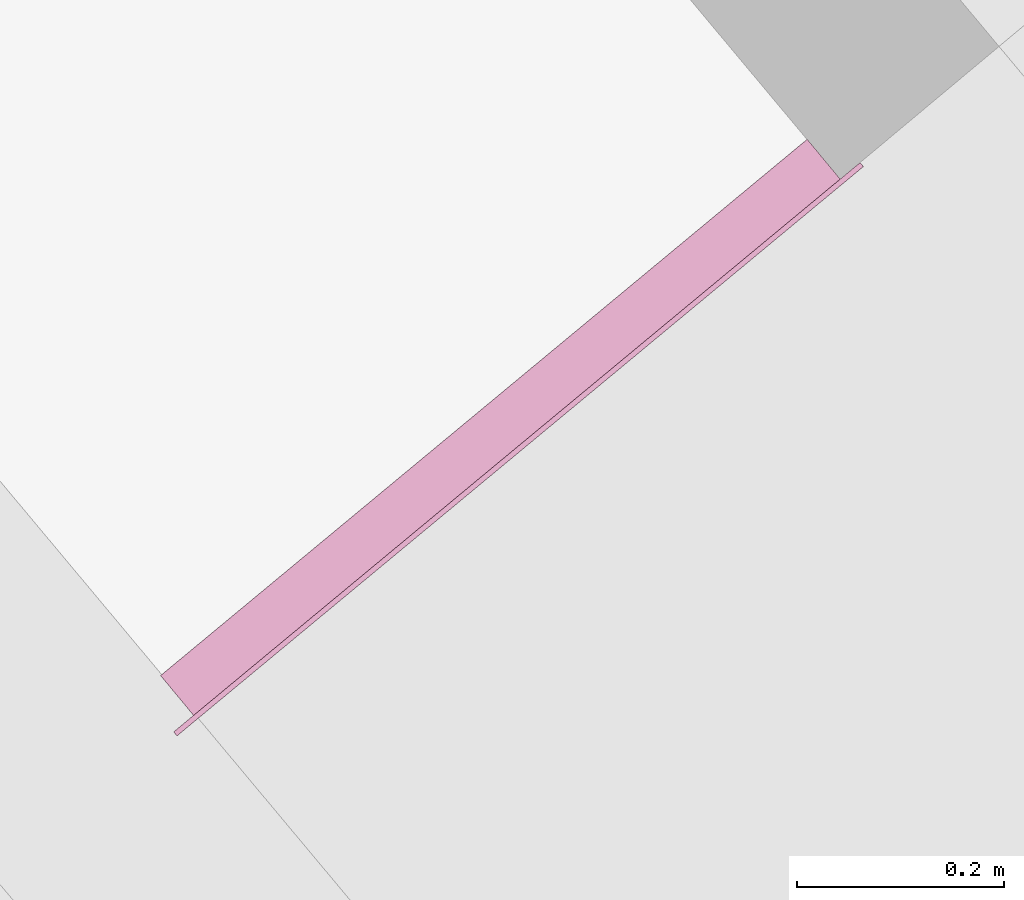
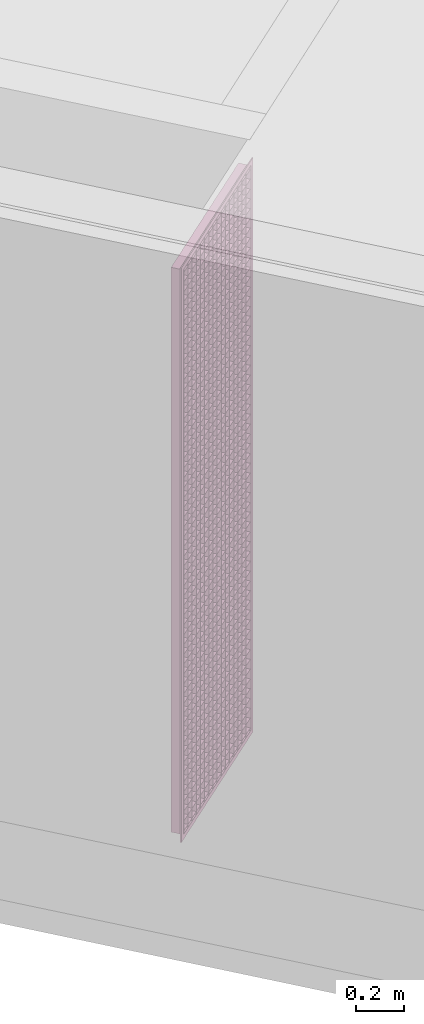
# One storey, part 17 of 17: 1 furniture element.
"""IFC4 building model written with IfcOpenShell, lengths in metres."""

from ifc_helpers import new_model, entity, si_unit, converted_unit, derived_unit, direction, frame, origin_with_axes, place, context, subcontext, project, spatial, polygons, type_object, element, save


model = new_model("IFC4")

# Units and contexts
model_context = context("Model", 3, precision=1e-05, world=origin_with_axes(), true_north=direction((0.0, 1.0)))
body_context = subcontext(model_context, "Body", "Model", "MODEL_VIEW")
ifc_project = project(units=[si_unit("LENGTHUNIT", "METRE"), si_unit("AREAUNIT", "SQUARE_METRE"), si_unit("VOLUMEUNIT", "CUBIC_METRE"), converted_unit("PLANEANGLEUNIT", "DEGREE", entity("IfcPlaneAngleMeasure", 0.0174532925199), si_unit("PLANEANGLEUNIT", "RADIAN"), dimensions=[0, 0, 0, 0, 0, 0, 0]), converted_unit("TIMEUNIT", "Year", entity("IfcTimeMeasure", 31556926.0), si_unit("TIMEUNIT", "SECOND"), dimensions=[0, 0, 1, 0, 0, 0, 0]), si_unit("MASSUNIT", "GRAM", prefix="KILO"), si_unit("THERMODYNAMICTEMPERATUREUNIT", "DEGREE_CELSIUS"), si_unit("LUMINOUSINTENSITYUNIT", "LUMEN"), si_unit("ENERGYUNIT", "JOULE", prefix="MEGA"), derived_unit("THERMALCONDUCTANCEUNIT", [(si_unit("POWERUNIT", "WATT"), 1), (si_unit("LENGTHUNIT", "METRE"), -1), (si_unit("THERMODYNAMICTEMPERATUREUNIT", "KELVIN"), -1)]), derived_unit("SPECIFICHEATCAPACITYUNIT", [(si_unit("ENERGYUNIT", "JOULE"), 1), (si_unit("MASSUNIT", "GRAM", prefix="KILO"), -1), (si_unit("THERMODYNAMICTEMPERATUREUNIT", "KELVIN"), -1)]), derived_unit("MASSDENSITYUNIT", [(si_unit("MASSUNIT", "GRAM", prefix="KILO"), 1), (si_unit("VOLUMEUNIT", "CUBIC_METRE"), -1)])], contexts=[model_context])

# Site, building, storey
site_placement = place(None, frame((-0.00153261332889, -0.00661245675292, 0.0), z_axis=(0.0, 0.0, 1.0), x_axis=(1.0, 0.0, 0.0)))
site = spatial("IfcSite", under=ifc_project, at=site_placement, Name="Site", CompositionType="ELEMENT")
building_placement = place(site_placement, origin_with_axes())
building = spatial("IfcBuilding", under=site, at=building_placement, Name="Building", CompositionType="ELEMENT")
storey_placement = place(building_placement, frame((0.0, 0.0, -3.3), z_axis=(0.0, 0.0, 1.0), x_axis=(1.0, 0.0, 0.0)))
storey = spatial("IfcBuildingStorey", under=building, at=storey_placement, Name="UG1", CompositionType="ELEMENT", Elevation=-3.3)

# Furniture
furniture_type = type_object("IfcFurnitureType", Name="Seitenwand-Gitter 26", AssemblyPlace="NOTDEFINED", PredefinedType="NOTDEFINED")
furniture_placement = place(storey_placement, frame((-4.59703367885, 15.4064197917, 1.309), z_axis=(0.0, 0.0, 1.0), x_axis=(0.769737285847, 0.638360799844, 0.0)))
element("IfcFurniture", 1, at=furniture_placement, inside=storey, type_object=furniture_type, Name="Objekt-0002", PredefinedType="NOTDEFINED", context=body_context, shape_type="Tessellation", body=[
    polygons([(0.431, -0.005, -1.466), (-0.431, -0.005, -1.466), (-0.431, 0.0, -1.466), (0.431, 0.0, -1.466), (0.431, -0.005, 1.466), (-0.431, -0.005, 1.466), (0.406, -0.005, -1.441), (-0.406, -0.005, -1.441), (-0.406, -0.005, 1.441), (0.406, -0.005, 1.441), (-0.431, 0.0, 1.466), (0.431, 0.0, 1.466), (0.406, 0.0, -1.441), (0.406, 0.0, 1.441), (-0.406, 0.0, 1.441), (-0.406, 0.0, -1.441)], [[[1, 2, 3, 4]], [[1, 5, 6, 2], [7, 8, 9, 10]], [[2, 6, 11, 3]], [[4, 3, 11, 12], [13, 14, 15, 16]], [[5, 1, 4, 12]], [[6, 5, 12, 11]], [[8, 7, 13, 16]], [[9, 8, 16, 15]], [[10, 9, 15, 14]], [[7, 10, 14, 13]]], closed=True),
    polygons([(-0.405, -0.005, -1.425), (0.405, -0.005, -1.425), (0.405, 0.02, -1.425), (-0.405, 0.02, -1.425)], [[[1, 2, 3, 4]]], closed=False),
    polygons([(-0.405, -0.005, -1.375), (0.405, -0.005, -1.375), (0.405, 0.02, -1.375), (-0.405, 0.02, -1.375)], [[[1, 2, 3, 4]]], closed=False),
    polygons([(-0.405, -0.005, -1.325), (0.405, -0.005, -1.325), (0.405, 0.02, -1.325), (-0.405, 0.02, -1.325)], [[[1, 2, 3, 4]]], closed=False),
    polygons([(-0.405, -0.005, -1.275), (0.405, -0.005, -1.275), (0.405, 0.02, -1.275), (-0.405, 0.02, -1.275)], [[[1, 2, 3, 4]]], closed=False),
    polygons([(-0.405, -0.005, -1.225), (0.405, -0.005, -1.225), (0.405, 0.02, -1.225), (-0.405, 0.02, -1.225)], [[[1, 2, 3, 4]]], closed=False),
    polygons([(-0.405, -0.005, -1.175), (0.405, -0.005, -1.175), (0.405, 0.02, -1.175), (-0.405, 0.02, -1.175)], [[[1, 2, 3, 4]]], closed=False),
    polygons([(-0.405, -0.005, -1.125), (0.405, -0.005, -1.125), (0.405, 0.02, -1.125), (-0.405, 0.02, -1.125)], [[[1, 2, 3, 4]]], closed=False),
    polygons([(-0.405, -0.005, -1.075), (0.405, -0.005, -1.075), (0.405, 0.02, -1.075), (-0.405, 0.02, -1.075)], [[[1, 2, 3, 4]]], closed=False),
    polygons([(-0.405, -0.005, -1.025), (0.405, -0.005, -1.025), (0.405, 0.02, -1.025), (-0.405, 0.02, -1.025)], [[[1, 2, 3, 4]]], closed=False),
    polygons([(-0.405, -0.005, -0.975), (0.405, -0.005, -0.975), (0.405, 0.02, -0.975), (-0.405, 0.02, -0.975)], [[[1, 2, 3, 4]]], closed=False),
    polygons([(-0.405, -0.005, -0.925), (0.405, -0.005, -0.925), (0.405, 0.02, -0.925), (-0.405, 0.02, -0.925)], [[[1, 2, 3, 4]]], closed=False),
    polygons([(-0.405, -0.005, -0.875), (0.405, -0.005, -0.875), (0.405, 0.02, -0.875), (-0.405, 0.02, -0.875)], [[[1, 2, 3, 4]]], closed=False),
    polygons([(-0.405, -0.005, -0.825), (0.405, -0.005, -0.825), (0.405, 0.02, -0.825), (-0.405, 0.02, -0.825)], [[[1, 2, 3, 4]]], closed=False),
    polygons([(-0.405, -0.005, -0.775), (0.405, -0.005, -0.775), (0.405, 0.02, -0.775), (-0.405, 0.02, -0.775)], [[[1, 2, 3, 4]]], closed=False),
    polygons([(-0.405, -0.005, -0.725), (0.405, -0.005, -0.725), (0.405, 0.02, -0.725), (-0.405, 0.02, -0.725)], [[[1, 2, 3, 4]]], closed=False),
    polygons([(-0.405, -0.005, -0.675), (0.405, -0.005, -0.675), (0.405, 0.02, -0.675), (-0.405, 0.02, -0.675)], [[[1, 2, 3, 4]]], closed=False),
    polygons([(-0.405, -0.005, -0.625), (0.405, -0.005, -0.625), (0.405, 0.02, -0.625), (-0.405, 0.02, -0.625)], [[[1, 2, 3, 4]]], closed=False),
    polygons([(-0.405, -0.005, -0.575), (0.405, -0.005, -0.575), (0.405, 0.02, -0.575), (-0.405, 0.02, -0.575)], [[[1, 2, 3, 4]]], closed=False),
    polygons([(-0.405, -0.005, -0.525), (0.405, -0.005, -0.525), (0.405, 0.02, -0.525), (-0.405, 0.02, -0.525)], [[[1, 2, 3, 4]]], closed=False),
    polygons([(-0.405, -0.005, -0.475), (0.405, -0.005, -0.475), (0.405, 0.02, -0.475), (-0.405, 0.02, -0.475)], [[[1, 2, 3, 4]]], closed=False),
    polygons([(-0.405, -0.005, -0.425), (0.405, -0.005, -0.425), (0.405, 0.02, -0.425), (-0.405, 0.02, -0.425)], [[[1, 2, 3, 4]]], closed=False),
    polygons([(-0.405, -0.005, -0.375), (0.405, -0.005, -0.375), (0.405, 0.02, -0.375), (-0.405, 0.02, -0.375)], [[[1, 2, 3, 4]]], closed=False),
    polygons([(-0.405, -0.005, -0.325), (0.405, -0.005, -0.325), (0.405, 0.02, -0.325), (-0.405, 0.02, -0.325)], [[[1, 2, 3, 4]]], closed=False),
    polygons([(-0.405, -0.005, -0.275), (0.405, -0.005, -0.275), (0.405, 0.02, -0.275), (-0.405, 0.02, -0.275)], [[[1, 2, 3, 4]]], closed=False),
    polygons([(-0.405, -0.005, -0.225), (0.405, -0.005, -0.225), (0.405, 0.02, -0.225), (-0.405, 0.02, -0.225)], [[[1, 2, 3, 4]]], closed=False),
    polygons([(-0.405, -0.005, -0.175), (0.405, -0.005, -0.175), (0.405, 0.02, -0.175), (-0.405, 0.02, -0.175)], [[[1, 2, 3, 4]]], closed=False),
    polygons([(-0.405, -0.005, -0.125), (0.405, -0.005, -0.125), (0.405, 0.02, -0.125), (-0.405, 0.02, -0.125)], [[[1, 2, 3, 4]]], closed=False),
    polygons([(-0.405, -0.005, -0.075), (0.405, -0.005, -0.075), (0.405, 0.02, -0.075), (-0.405, 0.02, -0.075)], [[[1, 2, 3, 4]]], closed=False),
    polygons([(-0.405, -0.005, -0.025), (0.405, -0.005, -0.025), (0.405, 0.02, -0.025), (-0.405, 0.02, -0.025)], [[[1, 2, 3, 4]]], closed=False),
    polygons([(-0.405, -0.005, 0.025), (0.405, -0.005, 0.025), (0.405, 0.02, 0.025), (-0.405, 0.02, 0.025)], [[[1, 2, 3, 4]]], closed=False),
    polygons([(-0.405, -0.005, 0.075), (0.405, -0.005, 0.075), (0.405, 0.02, 0.075), (-0.405, 0.02, 0.075)], [[[1, 2, 3, 4]]], closed=False),
    polygons([(-0.405, -0.005, 0.125), (0.405, -0.005, 0.125), (0.405, 0.02, 0.125), (-0.405, 0.02, 0.125)], [[[1, 2, 3, 4]]], closed=False),
    polygons([(-0.405, -0.005, 0.175), (0.405, -0.005, 0.175), (0.405, 0.02, 0.175), (-0.405, 0.02, 0.175)], [[[1, 2, 3, 4]]], closed=False),
    polygons([(-0.405, -0.005, 0.225), (0.405, -0.005, 0.225), (0.405, 0.02, 0.225), (-0.405, 0.02, 0.225)], [[[1, 2, 3, 4]]], closed=False),
    polygons([(-0.405, -0.005, 0.275), (0.405, -0.005, 0.275), (0.405, 0.02, 0.275), (-0.405, 0.02, 0.275)], [[[1, 2, 3, 4]]], closed=False),
    polygons([(-0.405, -0.005, 0.325), (0.405, -0.005, 0.325), (0.405, 0.02, 0.325), (-0.405, 0.02, 0.325)], [[[1, 2, 3, 4]]], closed=False),
    polygons([(-0.405, -0.005, 0.375), (0.405, -0.005, 0.375), (0.405, 0.02, 0.375), (-0.405, 0.02, 0.375)], [[[1, 2, 3, 4]]], closed=False),
    polygons([(-0.405, -0.005, 0.425), (0.405, -0.005, 0.425), (0.405, 0.02, 0.425), (-0.405, 0.02, 0.425)], [[[1, 2, 3, 4]]], closed=False),
    polygons([(-0.405, -0.005, 0.475), (0.405, -0.005, 0.475), (0.405, 0.02, 0.475), (-0.405, 0.02, 0.475)], [[[1, 2, 3, 4]]], closed=False),
    polygons([(-0.405, -0.005, 0.525), (0.405, -0.005, 0.525), (0.405, 0.02, 0.525), (-0.405, 0.02, 0.525)], [[[1, 2, 3, 4]]], closed=False),
    polygons([(-0.405, -0.005, 0.575), (0.405, -0.005, 0.575), (0.405, 0.02, 0.575), (-0.405, 0.02, 0.575)], [[[1, 2, 3, 4]]], closed=False),
    polygons([(-0.405, -0.005, 0.625), (0.405, -0.005, 0.625), (0.405, 0.02, 0.625), (-0.405, 0.02, 0.625)], [[[1, 2, 3, 4]]], closed=False),
    polygons([(-0.405, -0.005, 0.675), (0.405, -0.005, 0.675), (0.405, 0.02, 0.675), (-0.405, 0.02, 0.675)], [[[1, 2, 3, 4]]], closed=False),
    polygons([(-0.405, -0.005, 0.725), (0.405, -0.005, 0.725), (0.405, 0.02, 0.725), (-0.405, 0.02, 0.725)], [[[1, 2, 3, 4]]], closed=False),
    polygons([(-0.405, -0.005, 0.775), (0.405, -0.005, 0.775), (0.405, 0.02, 0.775), (-0.405, 0.02, 0.775)], [[[1, 2, 3, 4]]], closed=False),
    polygons([(-0.405, -0.005, 0.825), (0.405, -0.005, 0.825), (0.405, 0.02, 0.825), (-0.405, 0.02, 0.825)], [[[1, 2, 3, 4]]], closed=False),
    polygons([(-0.405, -0.005, 0.875), (0.405, -0.005, 0.875), (0.405, 0.02, 0.875), (-0.405, 0.02, 0.875)], [[[1, 2, 3, 4]]], closed=False),
    polygons([(-0.405, -0.005, 0.925), (0.405, -0.005, 0.925), (0.405, 0.02, 0.925), (-0.405, 0.02, 0.925)], [[[1, 2, 3, 4]]], closed=False),
    polygons([(-0.405, -0.005, 0.975), (0.405, -0.005, 0.975), (0.405, 0.02, 0.975), (-0.405, 0.02, 0.975)], [[[1, 2, 3, 4]]], closed=False),
    polygons([(-0.405, -0.005, 1.025), (0.405, -0.005, 1.025), (0.405, 0.02, 1.025), (-0.405, 0.02, 1.025)], [[[1, 2, 3, 4]]], closed=False),
    polygons([(-0.405, -0.005, 1.075), (0.405, -0.005, 1.075), (0.405, 0.02, 1.075), (-0.405, 0.02, 1.075)], [[[1, 2, 3, 4]]], closed=False),
    polygons([(-0.405, -0.005, 1.125), (0.405, -0.005, 1.125), (0.405, 0.02, 1.125), (-0.405, 0.02, 1.125)], [[[1, 2, 3, 4]]], closed=False),
    polygons([(-0.405, -0.005, 1.175), (0.405, -0.005, 1.175), (0.405, 0.02, 1.175), (-0.405, 0.02, 1.175)], [[[1, 2, 3, 4]]], closed=False),
    polygons([(-0.405, -0.005, 1.225), (0.405, -0.005, 1.225), (0.405, 0.02, 1.225), (-0.405, 0.02, 1.225)], [[[1, 2, 3, 4]]], closed=False),
    polygons([(-0.405, -0.005, 1.275), (0.405, -0.005, 1.275), (0.405, 0.02, 1.275), (-0.405, 0.02, 1.275)], [[[1, 2, 3, 4]]], closed=False),
    polygons([(-0.405, -0.005, 1.325), (0.405, -0.005, 1.325), (0.405, 0.02, 1.325), (-0.405, 0.02, 1.325)], [[[1, 2, 3, 4]]], closed=False),
    polygons([(-0.405, -0.005, 1.375), (0.405, -0.005, 1.375), (0.405, 0.02, 1.375), (-0.405, 0.02, 1.375)], [[[1, 2, 3, 4]]], closed=False),
    polygons([(-0.405, -0.005, 1.425), (0.405, -0.005, 1.425), (0.405, 0.02, 1.425), (-0.405, 0.02, 1.425)], [[[1, 2, 3, 4]]], closed=False),
    polygons([(0.4, -0.005, 1.44), (0.4, -0.005, -1.44), (0.4, 0.02, -1.44), (0.4, 0.02, 1.44)], [[[1, 2, 3, 4]]], closed=False),
    polygons([(0.35, -0.005, 1.44), (0.35, -0.005, -1.44), (0.35, 0.02, -1.44), (0.35, 0.02, 1.44)], [[[1, 2, 3, 4]]], closed=False),
    polygons([(0.3, -0.005, 1.44), (0.3, -0.005, -1.44), (0.3, 0.02, -1.44), (0.3, 0.02, 1.44)], [[[1, 2, 3, 4]]], closed=False),
    polygons([(0.25, -0.005, 1.44), (0.25, -0.005, -1.44), (0.25, 0.02, -1.44), (0.25, 0.02, 1.44)], [[[1, 2, 3, 4]]], closed=False),
    polygons([(0.2, -0.005, 1.44), (0.2, -0.005, -1.44), (0.2, 0.02, -1.44), (0.2, 0.02, 1.44)], [[[1, 2, 3, 4]]], closed=False),
    polygons([(0.15, -0.005, 1.44), (0.15, -0.005, -1.44), (0.15, 0.02, -1.44), (0.15, 0.02, 1.44)], [[[1, 2, 3, 4]]], closed=False),
    polygons([(0.1, -0.005, 1.44), (0.1, -0.005, -1.44), (0.1, 0.02, -1.44), (0.1, 0.02, 1.44)], [[[1, 2, 3, 4]]], closed=False),
    polygons([(0.05, -0.005, 1.44), (0.05, -0.005, -1.44), (0.05, 0.02, -1.44), (0.05, 0.02, 1.44)], [[[1, 2, 3, 4]]], closed=False),
    polygons([(0.0, -0.005, 1.44), (0.0, -0.005, -1.44), (0.0, 0.02, -1.44), (0.0, 0.02, 1.44)], [[[1, 2, 3, 4]]], closed=False),
    polygons([(-0.05, -0.005, 1.44), (-0.05, -0.005, -1.44), (-0.05, 0.02, -1.44), (-0.05, 0.02, 1.44)], [[[1, 2, 3, 4]]], closed=False),
    polygons([(-0.1, -0.005, 1.44), (-0.1, -0.005, -1.44), (-0.1, 0.02, -1.44), (-0.1, 0.02, 1.44)], [[[1, 2, 3, 4]]], closed=False),
    polygons([(-0.15, -0.005, 1.44), (-0.15, -0.005, -1.44), (-0.15, 0.02, -1.44), (-0.15, 0.02, 1.44)], [[[1, 2, 3, 4]]], closed=False),
    polygons([(-0.2, -0.005, 1.44), (-0.2, -0.005, -1.44), (-0.2, 0.02, -1.44), (-0.2, 0.02, 1.44)], [[[1, 2, 3, 4]]], closed=False),
    polygons([(-0.25, -0.005, 1.44), (-0.25, -0.005, -1.44), (-0.25, 0.02, -1.44), (-0.25, 0.02, 1.44)], [[[1, 2, 3, 4]]], closed=False),
    polygons([(-0.3, -0.005, 1.44), (-0.3, -0.005, -1.44), (-0.3, 0.02, -1.44), (-0.3, 0.02, 1.44)], [[[1, 2, 3, 4]]], closed=False),
    polygons([(-0.35, -0.005, 1.44), (-0.35, -0.005, -1.44), (-0.35, 0.02, -1.44), (-0.35, 0.02, 1.44)], [[[1, 2, 3, 4]]], closed=False),
    polygons([(-0.4, -0.005, 1.44), (-0.4, -0.005, -1.44), (-0.4, 0.02, -1.44), (-0.4, 0.02, 1.44)], [[[1, 2, 3, 4]]], closed=False),
    polygons([(-0.406, 0.0, -1.441), (-0.406, 0.0, 1.441), (-0.406, 0.05, 1.441), (-0.406, 0.05, -1.441), (0.406, 0.0, 1.441), (0.406, 0.05, 1.441), (0.406, 0.0, -1.441), (0.406, 0.05, -1.441)], [[[1, 2, 3, 4]], [[2, 5, 6, 3]], [[7, 1, 4, 8]], [[5, 7, 8, 6]]], closed=False),
])

save(model, "model.ifc")
